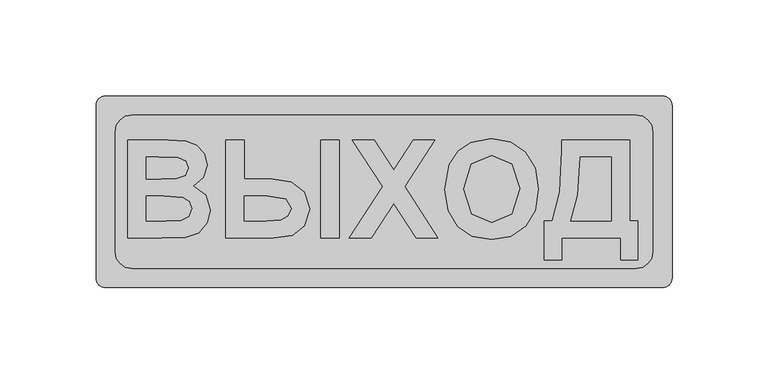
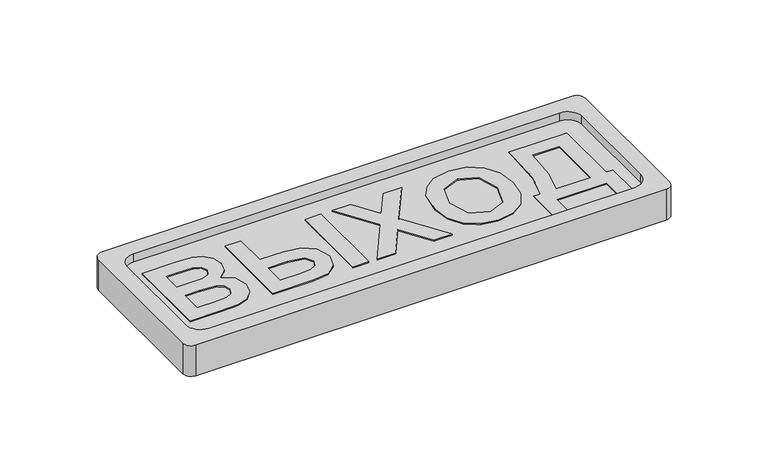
"""IFC4 building model written with IfcOpenShell, lengths in millimetres: alarm geometry."""

from ifc_helpers import new_model, si_unit, point, frame, frame_2d, origin, place, context, project, spatial, polyline, circle_curve, trimmed, segment, composite_curve, outline, extrude, source, transform, mapped, element, save
from ifc_brep_helpers import plane_surface, cylinder_surface, revolved_surface, advanced_brep


def alarm_4b7e8fd8(model_context):
    return source(origin(), model_context, "Body", "SolidModel", [
        advanced_brep(
        [(145.0, 50.0, 20.0), (-145.0, 50.0, 20.0), (-150.0, 45.0, 20.0), (-150.0, -45.0, 20.0), (-145.0, -50.0, 20.0), (145.0, -50.0, 20.0), (150.0, -45.0, 20.0), (150.0, 45.0, 20.0), (-140.0, 31.3333333, 20.0), (-131.3333333, 40.0, 20.0), (131.3333333, 40.0, 20.0), (140.0, 31.3333333, 20.0), (140.0, -31.3333333, 20.0), (131.3333333, -40.0, 20.0), (-131.3333333, -40.0, 20.0), (-140.0, -31.3333333, 20.0), (145.0, 50.0, 0.0), (150.0, 45.0, 0.0), (150.0, -45.0, 0.0), (145.0, -50.0, 0.0), (-145.0, -50.0, 0.0), (-150.0, -45.0, 0.0), (-150.0, 45.0, 0.0), (-145.0, 50.0, 0.0), (-131.3333333, 40.0, 10.0), (-140.0, 31.3333333, 10.0), (-140.0, -31.3333333, 10.0), (-131.3333333, -40.0, 10.0), (131.3333333, -40.0, 10.0), (140.0, -31.3333333, 10.0), (140.0, 31.3333333, 10.0), (131.3333333, 40.0, 10.0)],
        [
            (0, 1),
            (1, 2, circle_curve(frame((-145.0, 45.0, 20.0), z_axis=(0.0, 0.0, 1.0), x_axis=(0.0, -1.0, 0.0)), 5.0)),
            (2, 3),
            (3, 4, circle_curve(frame((-145.0, -45.0, 20.0), z_axis=(0.0, 0.0, 1.0), x_axis=(0.0, -1.0, 0.0)), 5.0)),
            (4, 5),
            (5, 6, circle_curve(frame((145.0, -45.0, 20.0), z_axis=(0.0, 0.0, 1.0), x_axis=(0.0, -1.0, 0.0)), 5.0)),
            (6, 7),
            (7, 0, circle_curve(frame((145.0, 45.0, 20.0), z_axis=(0.0, 0.0, 1.0), x_axis=(0.0, -1.0, 0.0)), 5.0)),
            (8, 9, circle_curve(frame((-131.3333333, 31.3333333, 20.0), z_axis=(0.0, 0.0, -1.0), x_axis=(0.0, -1.0, 0.0)), 8.6666667)),
            (9, 10),
            (10, 11, circle_curve(frame((131.3333333, 31.3333333, 20.0), z_axis=(0.0, 0.0, -1.0), x_axis=(0.0, -1.0, 0.0)), 8.6666667)),
            (11, 12),
            (12, 13, circle_curve(frame((131.3333333, -31.3333333, 20.0), z_axis=(0.0, 0.0, -1.0), x_axis=(0.0, -1.0, 0.0)), 8.6666667)),
            (13, 14),
            (14, 15, circle_curve(frame((-131.3333333, -31.3333333, 20.0), z_axis=(0.0, 0.0, -1.0), x_axis=(0.0, -1.0, 0.0)), 8.6666667)),
            (15, 8),
            (16, 17, circle_curve(frame((145.0, 45.0, 0.0), z_axis=(0.0, 0.0, -1.0), x_axis=(0.0, -1.0, 0.0)), 5.0)),
            (17, 18),
            (18, 19, circle_curve(frame((145.0, -45.0, 0.0), z_axis=(0.0, 0.0, -1.0), x_axis=(0.0, -1.0, 0.0)), 5.0)),
            (19, 20),
            (20, 21, circle_curve(frame((-145.0, -45.0, 0.0), z_axis=(0.0, 0.0, -1.0), x_axis=(0.0, -1.0, 0.0)), 5.0)),
            (21, 22),
            (22, 23, circle_curve(frame((-145.0, 45.0, 0.0), z_axis=(0.0, 0.0, -1.0), x_axis=(0.0, -1.0, 0.0)), 5.0)),
            (23, 16),
            (0, 16),
            (23, 1),
            (22, 2),
            (21, 3),
            (20, 4),
            (19, 5),
            (18, 6),
            (17, 7),
            (24, 25, circle_curve(frame((-131.3333333, 31.3333333, 10.0), z_axis=(0.0, 0.0, 1.0), x_axis=(0.0, -1.0, 0.0)), 8.6666667)),
            (25, 26),
            (26, 27, circle_curve(frame((-131.3333333, -31.3333333, 10.0), z_axis=(0.0, 0.0, 1.0), x_axis=(0.0, -1.0, 0.0)), 8.6666667)),
            (27, 28),
            (28, 29, circle_curve(frame((131.3333333, -31.3333333, 10.0), z_axis=(0.0, 0.0, 1.0), x_axis=(0.0, -1.0, 0.0)), 8.6666667)),
            (29, 30),
            (30, 31, circle_curve(frame((131.3333333, 31.3333333, 10.0), z_axis=(0.0, 0.0, 1.0), x_axis=(0.0, -1.0, 0.0)), 8.6666667)),
            (31, 24),
            (24, 9),
            (8, 25),
            (15, 26),
            (14, 27),
            (13, 28),
            (12, 29),
            (11, 30),
            (10, 31),
        ],
        [
            plane_surface(frame((-114.3763565, 50.0, 20.0), z_axis=(0.0, 0.0, 1.0), x_axis=(-1.0, 0.0, 0.0))),
            plane_surface(frame((-114.3763565, 50.0, 0.0), z_axis=(0.0, 0.0, -1.0), x_axis=(1.0, 0.0, 0.0))),
            plane_surface(frame((145.0, 50.0, 20.0), z_axis=(0.0, 1.0, 0.0), x_axis=(0.0, 0.0, -1.0))),
            cylinder_surface(frame((-145.0, 45.0, 0.0), z_axis=(0.0, 0.0, 1.0), x_axis=(0.0, -1.0, 0.0)), 5.0),
            plane_surface(frame((-150.0, 45.0, 20.0), z_axis=(-1.0, 0.0, 0.0), x_axis=(0.0, 0.0, -1.0))),
            cylinder_surface(frame((-145.0, -45.0, 0.0), z_axis=(0.0, 0.0, 1.0), x_axis=(0.0, -1.0, 0.0)), 5.0),
            plane_surface(frame((-145.0, -50.0, 20.0), z_axis=(0.0, -1.0, 0.0), x_axis=(0.0, 0.0, -1.0))),
            cylinder_surface(frame((145.0, -45.0, 0.0), z_axis=(0.0, 0.0, 1.0), x_axis=(0.0, -1.0, 0.0)), 5.0),
            plane_surface(frame((150.0, -45.0, 20.0), z_axis=(1.0, 0.0, 0.0), x_axis=(0.0, 0.0, -1.0))),
            cylinder_surface(frame((145.0, 45.0, 0.0), z_axis=(0.0, 0.0, 1.0), x_axis=(0.0, -1.0, 0.0)), 5.0),
            plane_surface(frame((-131.3333333, 22.6666667, 10.0), z_axis=(0.0, 0.0, 1.0), x_axis=(-1.0, 0.0, 0.0))),
            revolved_surface(polyline([(-131.3333333, 22.6666666, 20.0), (-131.3333333, 22.6666666, 10.0)]), (-131.3333333, 31.3333333, 10.0), (0.0, 0.0, 1.0)),
            plane_surface(frame((-140.0, 31.3333333, 20.0), z_axis=(1.0, 0.0, 0.0), x_axis=(0.0, 0.0, -1.0))),
            revolved_surface(polyline([(-131.3333333, -40.0, 20.0), (-131.3333333, -40.0, 10.0)]), (-131.3333333, -31.3333333, 10.0), (0.0, 0.0, 1.0)),
            plane_surface(frame((-131.3333333, -40.0, 20.0), z_axis=(0.0, 1.0, 0.0), x_axis=(0.0, 0.0, -1.0))),
            revolved_surface(polyline([(131.3333333, -40.0, 20.0), (131.3333333, -40.0, 10.0)]), (131.3333333, -31.3333333, 10.0), (0.0, 0.0, 1.0)),
            plane_surface(frame((140.0, -31.3333333, 20.0), z_axis=(-1.0, 0.0, 0.0), x_axis=(0.0, 0.0, -1.0))),
            revolved_surface(polyline([(131.3333333, 22.6666666, 20.0), (131.3333333, 22.6666666, 10.0)]), (131.3333333, 31.3333333, 10.0), (0.0, 0.0, 1.0)),
            plane_surface(frame((131.3333333, 40.0, 20.0), z_axis=(0.0, -1.0, 0.0), x_axis=(0.0, 0.0, -1.0))),
        ],
        [
            (0, [[1, 2, 3, 4, 5, 6, 7, 8], [9, 10, 11, 12, 13, 14, 15, 16]]),
            (1, [[17, 18, 19, 20, 21, 22, 23, 24]]),
            (2, [[-1, 25, -24, 26]]),
            (3, [[-2, -26, -23, 27]]),
            (4, [[-3, -27, -22, 28]]),
            (5, [[-4, -28, -21, 29]]),
            (6, [[-5, -29, -20, 30]]),
            (7, [[-6, -30, -19, 31]]),
            (8, [[-7, -31, -18, 32]]),
            (9, [[-8, -32, -17, -25]]),
            (10, [[33, 34, 35, 36, 37, 38, 39, 40]]),
            (11, [[-33, 41, -9, 42]]),
            (12, [[-34, -42, -16, 43]]),
            (13, [[-35, -43, -15, 44]]),
            (14, [[-36, -44, -14, 45]]),
            (15, [[-37, -45, -13, 46]]),
            (16, [[-38, -46, -12, 47]]),
            (17, [[-39, -47, -11, 48]]),
            (18, [[-40, -48, -10, -41]]),
        ],
    ),
        extrude(outline(composite_curve([segment(trimmed(circle_curve(frame_2d((131.3333333, 31.3333333)), 8.6666667), [point((131.3333333, 40.0))], [point((140.0, 31.3333333))], False, "CARTESIAN"), True, "CONTINUOUS"), segment(polyline([(140.0, 31.3333333), (140.0, -31.3333333)]), True, "CONTINUOUS"), segment(trimmed(circle_curve(frame_2d((131.3333333, -31.3333333)), 8.6666667), [point((140.0, -31.3333333))], [point((131.3333333, -40.0))], False, "CARTESIAN"), True, "CONTINUOUS"), segment(polyline([(131.3333333, -40.0), (-131.3333333, -40.0)]), True, "CONTINUOUS"), segment(trimmed(circle_curve(frame_2d((-131.3333333, -31.3333333)), 8.6666667), [point((-131.3333333, -40.0))], [point((-140.0, -31.3333333))], False, "CARTESIAN"), True, "CONTINUOUS"), segment(polyline([(-140.0, -31.3333333), (-140.0, 31.3333333)]), True, "CONTINUOUS"), segment(trimmed(circle_curve(frame_2d((-131.3333333, 31.3333333)), 8.6666667), [point((-140.0, 31.3333333))], [point((-131.3333333, 40.0))], False, "CARTESIAN"), True, "CONTINUOUS"), segment(polyline([(-131.3333333, 40.0), (131.3333333, 40.0)]), True, "CONTINUOUS")], self_intersect=False)), frame((0.0, 0.0, 10.0), z_axis=(0.0, 0.0, 1.0), x_axis=(1.0, 0.0, 0.0)), (0.0, 0.0, 1.0), 5.0),
        extrude(outline(polyline([(-133.4370284, 26.9051959), (-112.4979249, 26.9051959), (-103.2303157, 26.3991149), (-97.7646403, 24.2799005), (-93.747622, 19.9908636), (-92.1408146, 13.9874771), (-94.0575966, 7.3831194), (-99.2639054, 2.866346), (-92.786068, -1.7389916), (-90.5213553, -9.3934675), (-92.1471406, -16.1306715), (-96.5880019, -21.3559583), (-103.5276383, -23.7661694), (-116.0025362, -24.1077741), (-133.4370284, -24.1077741), (-133.4370284, 26.9051959)]), holes=[polyline([(-123.7202722, 17.9981694), (-123.7202722, 6.6619539), (-116.3061848, 6.6619539), (-108.0823677, 6.8264302), (-103.5213123, 8.5850619), (-101.8575708, 12.4186258), (-103.2935758, 16.1066915), (-107.5509826, 17.8336931), (-117.2171307, 17.9981694), (-123.7202722, 17.9981694)]), polyline([(-123.7202722, -2.2450726), (-123.7202722, -15.2007476), (-113.4468269, -15.2007476), (-105.8303071, -14.8970989), (-101.7943107, -12.9676649), (-100.2381114, -8.8494304), (-101.4400539, -5.1550387), (-104.9067091, -2.9409341), (-114.7499856, -2.2450726), (-123.7202722, -2.2450726)])]), frame((0.0, 0.0, 10.0), z_axis=(0.0, 0.0, 1.0), x_axis=(1.0, 0.0, 0.0)), (0.0, 0.0, 1.0), 6.0),
        extrude(outline(polyline([(-82.4240584, 26.9051959), (-72.7073022, 26.9051959), (-72.7073022, 6.6619539), (-58.1827761, 6.6619539), (-48.3268476, 5.1753408), (-41.4504713, -0.1385103), (-38.6986556, -8.9379945), (-41.4884274, -17.9019552), (-47.6942463, -22.8868535), (-57.689347, -24.1077741), (-82.4240584, -24.1077741), (-82.4240584, 26.9051959)]), holes=[polyline([(-72.7073022, -15.2007476), (-61.3963907, -15.2007476), (-53.8747611, -14.7516006), (-50.0791532, -12.6956463), (-48.4154118, -8.7861702), (-51.1355974, -3.88351), (-60.9282658, -2.2450726), (-72.7073022, -2.2450726), (-72.7073022, -15.2007476)])]), frame((0.0, 0.0, 10.0), z_axis=(0.0, 0.0, 1.0), x_axis=(1.0, 0.0, 0.0)), (0.0, 0.0, 1.0), 6.0),
        extrude(outline(polyline([(-33.0305478, 26.9051959), (-23.3137916, 26.9051959), (-23.3137916, -24.1077741), (-33.0305478, -24.1077741), (-33.0305478, 26.9051959)])), frame((0.0, 0.0, 10.0), z_axis=(0.0, 0.0, 1.0), x_axis=(1.0, 0.0, 0.0)), (0.0, 0.0, 1.0), 6.0),
        extrude(outline(polyline([(-18.0505487, -24.1077741), (-0.6540125, 2.6386095), (-16.4310893, 26.9051959), (-5.0695697, 26.9051959), (5.0267473, 11.3811597), (15.1230643, 26.9051959), (26.4845839, 26.9051959), (10.7075071, 2.6386095), (28.1040432, -24.1077741), (16.7425236, -24.1077741), (5.0267473, -6.0912886), (-6.6890291, -24.1077741), (-18.0505487, -24.1077741)])), frame((0.0, 0.0, 10.0), z_axis=(0.0, 0.0, 1.0), x_axis=(1.0, 0.0, 0.0)), (0.0, 0.0, 1.0), 6.0),
        extrude(outline(polyline([(31.7478268, 1.0824103), (34.0378436, 14.1393014), (38.7001153, 21.1168939), (45.1716267, 25.7032534), (55.9764572, 27.7149256), (65.9399279, 25.9705275), (73.689294, 20.7373331), (78.6710293, 12.3980663), (80.3316078, 1.3354508), (78.6836813, -9.655997), (73.7399021, -17.9588893), (66.0348181, -23.1778501), (56.1029774, -24.9175037), (46.0762466, -23.1857576), (38.3395325, -17.9905194), (33.3957532, -9.7587947), (31.7478268, 1.0824103)]), holes=[polyline([(41.464583, 1.436667), (45.5954696, -11.582268), (56.0903254, -16.0104772), (66.5345731, -11.6138981), (70.6148516, 1.5758393), (66.6421153, 14.5315142), (56.0903254, 18.8078991), (45.4879274, 14.4809061), (41.464583, 1.436667)])]), frame((0.0, 0.0, 10.0), z_axis=(0.0, 0.0, 1.0), x_axis=(1.0, 0.0, 0.0)), (0.0, 0.0, 1.0), 6.0),
        extrude(outline(polyline([(92.477553, 26.9051959), (128.105659, 26.9051959), (128.105659, -15.2007476), (132.1543074, -15.2007476), (132.1543074, -35.4439896), (123.2472809, -35.4439896), (123.2472809, -24.1077741), (92.477553, -24.1077741), (92.477553, -35.4439896), (83.5705265, -35.4439896), (83.5705265, -15.2007476), (87.6191749, -15.2007476), (91.534977, -0.1321842), (92.477553, 21.5533888), (92.477553, 26.9051959)]), holes=[polyline([(102.1943092, 17.9981694), (100.9797147, -1.6883835), (97.3359311, -15.2007476), (118.3889028, -15.2007476), (118.3889028, 17.9981694), (102.1943092, 17.9981694)])]), frame((0.0, 0.0, 10.0), z_axis=(0.0, 0.0, 1.0), x_axis=(1.0, 0.0, 0.0)), (0.0, 0.0, 1.0), 6.0),
    ])


if __name__ == "__main__":
    model = new_model("IFC4")
    model_context = context("Model", 3, world=origin())
    ifc_project = project(units=[si_unit("LENGTHUNIT", "METRE", prefix="MILLI")], contexts=[model_context])
    site = spatial("IfcSite", under=ifc_project)
    building = spatial("IfcBuilding", under=site)
    placement = place(None, origin())
    alarm_shape = alarm_4b7e8fd8(model_context)
    element("IfcAlarm", 1, ObjectType="RBZ_Оповещатель_Световой_Рубеж_ОПОП1-R3(грань) : ОПОП 1-R3 \"Выход\"", at=placement, inside=building, context=model_context, shape_type="MappedRepresentation", body=[
        mapped(alarm_shape, transform((0.0, 0.0, 0.0), x_axis=(1.0, 0.0, 0.0), y_axis=(0.0, 1.0, 0.0), z_axis=(0.0, 0.0, 1.0))),
    ])
    save(model, "model.ifc")
